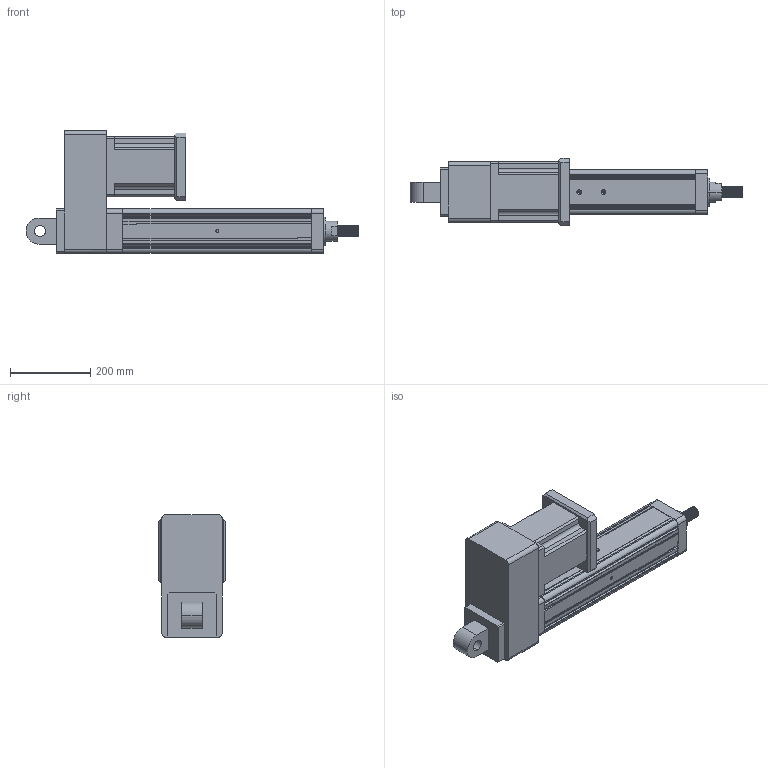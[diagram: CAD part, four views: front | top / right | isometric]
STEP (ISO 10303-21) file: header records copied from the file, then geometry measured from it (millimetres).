
FILE_DESCRIPTION (( 'STEP AP203' ), '1' );
FILE_NAME ('YRJ110-L300-H6K1.STEP', '2020-01-04T07:08:49', ( 'User' ), ( 'China' ), 'SwSTEP 2.0', 'SolidWorks 2016', '' );
FILE_SCHEMA (( 'CONFIG_CONTROL_DESIGN' ));
Length unit declared in the file: millimetre
Products named in the file (8): 095-100俴最倰第; 萇儂碟-110; 142熬厒儂; H5-110-1; H6-110; H3-110-2; K1-110; YRJ110-L300-H6K1
Assembly tree (7 placements, depth 2):
  YRJ110-L300-H6K1
    095-100俴最倰第
    萇儂碟-110
    142熬厒儂
    H5-110-1
    H6-110
    H3-110-2
    K1-110
Bounding box: 826 x 168 x 305.5 mm (x, y, z)
Volume: 12195068.7 mm3; surface area: 950959.6 mm2
Topology: 7 solids, 7 shells, 369 faces, 1016 edges, 658 vertices
Faces by surface type: plane 180, cylinder 158, cone 27, bspline 4
Entity records: 20486 total; most frequent: CARTESIAN_POINT 10386, ORIENTED_EDGE 2000, DIRECTION 1860, EDGE_CURVE 1000, VERTEX_POINT 658, VECTOR 636, LINE 636, AXIS2_PLACEMENT_3D 612
